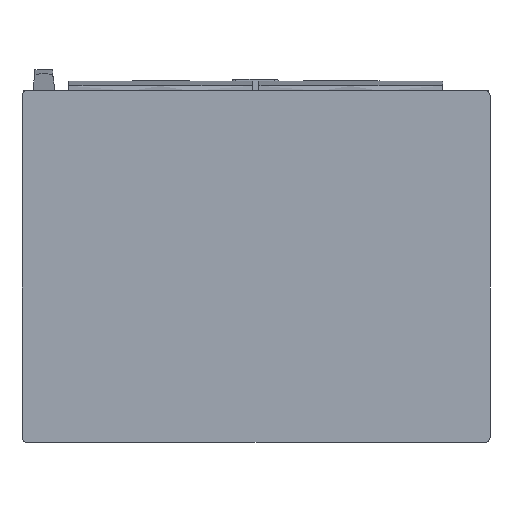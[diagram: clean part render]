
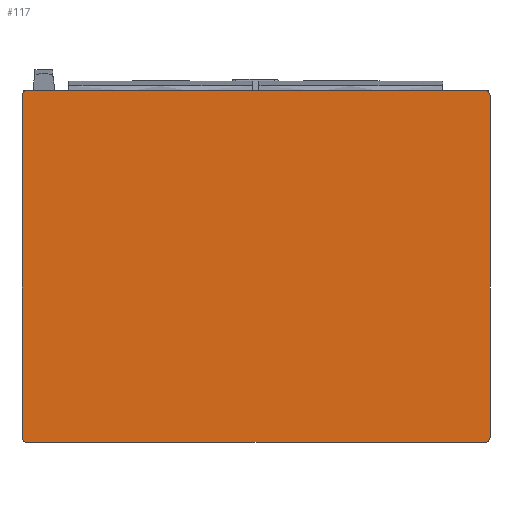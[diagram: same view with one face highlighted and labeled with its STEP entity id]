
A CAD part, front view. The second image highlights one B-rep face of the part: STEP entity #117.
In plain terms, the highlighted planar face has unit normal (0, -1, 0).
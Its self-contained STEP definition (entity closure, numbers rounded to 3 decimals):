
#117=ADVANCED_FACE('Corps de pi\X2\00E8\X0\ce.1',(#253),#254,.T.);
#253=FACE_OUTER_BOUND('',#532,.T.);
#254=PLANE('',#533);
#532=EDGE_LOOP('',(#1037,#1038,#1039,#1040,#1041,#1042,#1043,#1044));
#533=AXIS2_PLACEMENT_3D('',#1045,#1046,#1047);
#1037=ORIENTED_EDGE('',*,*,#1208,.T.);
#1038=ORIENTED_EDGE('',*,*,#1206,.T.);
#1039=ORIENTED_EDGE('',*,*,#1204,.T.);
#1040=ORIENTED_EDGE('',*,*,#1202,.T.);
#1041=ORIENTED_EDGE('',*,*,#1200,.T.);
#1042=ORIENTED_EDGE('',*,*,#1198,.T.);
#1043=ORIENTED_EDGE('',*,*,#1196,.T.);
#1044=ORIENTED_EDGE('',*,*,#1209,.T.);
#1045=CARTESIAN_POINT('',(-400.0,-221.0,300.0));
#1046=DIRECTION('',(0.0,-1.0,0.0));
#1047=DIRECTION('',(0.0,0.0,-1.0));
#1196=EDGE_CURVE('',#1456,#1458,#1460,.T.);
#1198=EDGE_CURVE('',#1461,#1456,#1463,.F.);
#1200=EDGE_CURVE('',#1464,#1461,#1466,.T.);
#1202=EDGE_CURVE('',#1467,#1464,#1469,.F.);
#1204=EDGE_CURVE('',#1470,#1467,#1472,.T.);
#1206=EDGE_CURVE('',#1473,#1470,#1475,.F.);
#1208=EDGE_CURVE('',#1476,#1473,#1478,.T.);
#1209=EDGE_CURVE('',#1458,#1476,#1479,.F.);
#1456=VERTEX_POINT('',#2002);
#1458=VERTEX_POINT('',#2005);
#1460=LINE('',#2008,#2009);
#1461=VERTEX_POINT('',#2010);
#1463=CIRCLE('',#2013,8.6);
#1464=VERTEX_POINT('',#2014);
#1466=LINE('',#2017,#2018);
#1467=VERTEX_POINT('',#2019);
#1469=CIRCLE('',#2022,8.6);
#1470=VERTEX_POINT('',#2023);
#1472=LINE('',#2026,#2027);
#1473=VERTEX_POINT('',#2028);
#1475=CIRCLE('',#2031,8.6);
#1476=VERTEX_POINT('',#2032);
#1478=LINE('',#2035,#2036);
#1479=CIRCLE('',#2037,8.6);
#2002=CARTESIAN_POINT('',(393.9,-221.0,302.5));
#2005=CARTESIAN_POINT('',(-393.9,-221.0,302.5));
#2008=CARTESIAN_POINT('',(0.,-221.0,302.5));
#2009=VECTOR('',#2219,1.0);
#2010=CARTESIAN_POINT('',(402.5,-221.0,293.9));
#2013=AXIS2_PLACEMENT_3D('',#2221,#2222,#2223);
#2014=CARTESIAN_POINT('',(402.5,-221.0,-293.9));
#2017=CARTESIAN_POINT('',(402.5,-221.0,0.));
#2018=VECTOR('',#2225,1.0);
#2019=CARTESIAN_POINT('',(393.9,-221.0,-302.5));
#2022=AXIS2_PLACEMENT_3D('',#2227,#2228,#2229);
#2023=CARTESIAN_POINT('',(-393.9,-221.0,-302.5));
#2026=CARTESIAN_POINT('',(0.,-221.0,-302.5));
#2027=VECTOR('',#2231,1.0);
#2028=CARTESIAN_POINT('',(-402.5,-221.0,-293.9));
#2031=AXIS2_PLACEMENT_3D('',#2233,#2234,#2235);
#2032=CARTESIAN_POINT('',(-402.5,-221.0,293.9));
#2035=CARTESIAN_POINT('',(-402.5,-221.0,0.));
#2036=VECTOR('',#2237,1.0);
#2037=AXIS2_PLACEMENT_3D('',#2238,#2239,#2240);
#2219=DIRECTION('',(-1.0,0.0,0.0));
#2221=CARTESIAN_POINT('',(393.9,-221.0,293.9));
#2222=DIRECTION('',(0.0,1.0,-0.0));
#2223=DIRECTION('',(1.0,0.0,0.0));
#2225=DIRECTION('',(0.0,0.0,1.0));
#2227=CARTESIAN_POINT('',(393.9,-221.0,-293.9));
#2228=DIRECTION('',(0.0,1.0,-0.0));
#2229=DIRECTION('',(1.0,0.0,0.0));
#2231=DIRECTION('',(1.0,0.0,0.0));
#2233=CARTESIAN_POINT('',(-393.9,-221.0,-293.9));
#2234=DIRECTION('',(0.0,1.0,-0.0));
#2235=DIRECTION('',(1.0,0.0,0.0));
#2237=DIRECTION('',(0.0,0.0,-1.0));
#2238=CARTESIAN_POINT('',(-393.9,-221.0,293.9));
#2239=DIRECTION('',(0.0,1.0,-0.0));
#2240=DIRECTION('',(1.0,0.0,0.0));
